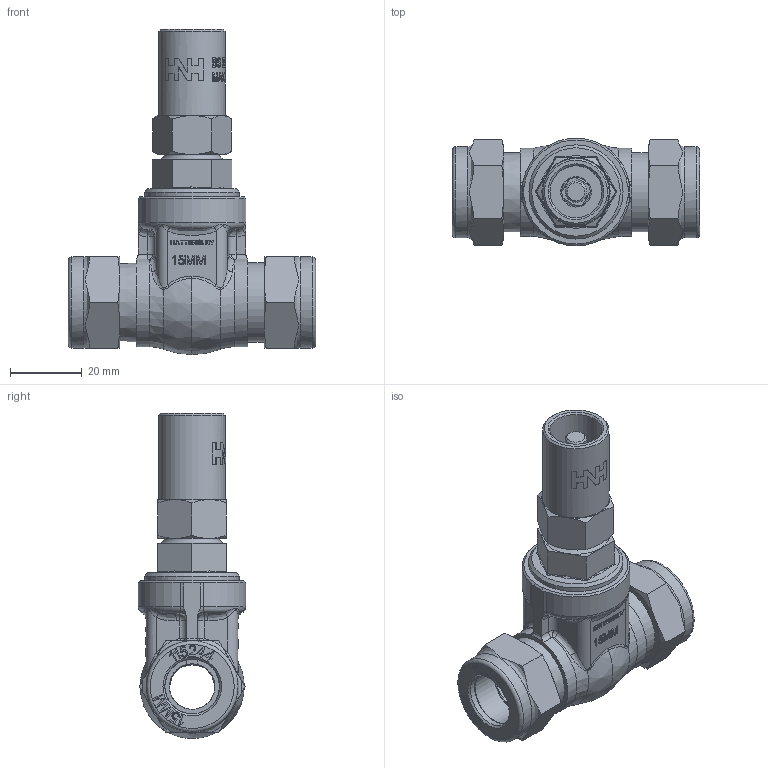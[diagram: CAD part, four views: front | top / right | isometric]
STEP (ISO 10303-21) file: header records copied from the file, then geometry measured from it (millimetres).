
FILE_DESCRIPTION((''),'2;1');
FILE_NAME('P:\Fastrack\53972_CRANE 3D\Gate Valves\Work Space\Lockshield\30CLS_15mm\30CLS_15mm.stp','2011-03-08T16:19:47',('btaylor'),(''),'Autodesk Inventor 2008','Autodesk Inventor 2008','');
FILE_SCHEMA(('AUTOMOTIVE_DESIGN { 1 0 10303 214 1 1 1 1 }'));
Length unit declared in the file: millimetre
Products named in the file (1): 30CLS_15mm
Bounding box: 69 x 30 x 90.49 mm (x, y, z)
Volume: 43855.2 mm3; surface area: 20589.1 mm2
Topology: 1 solids, 2 shells, 1313 faces, 3493 edges, 2276 vertices
Faces by surface type: plane 719, bspline 436, cylinder 95, cone 55, torus 8
Full cylindrical faces by diameter (mm): 6 x1, 7.9 x1, 8.5 x1, 13.37 x1, 14.5 x1, 15.25 x2, 15.3 x3, 18.5 x1, 22 x3, 25.4 x2, 26.2 x1
Entity records: 99044 total; most frequent: CARTESIAN_POINT 68701, ORIENTED_EDGE 6806, DIRECTION 4435, EDGE_CURVE 3403, VERTEX_POINT 2255, VECTOR 1973, LINE 1973, EDGE_LOOP 1478
